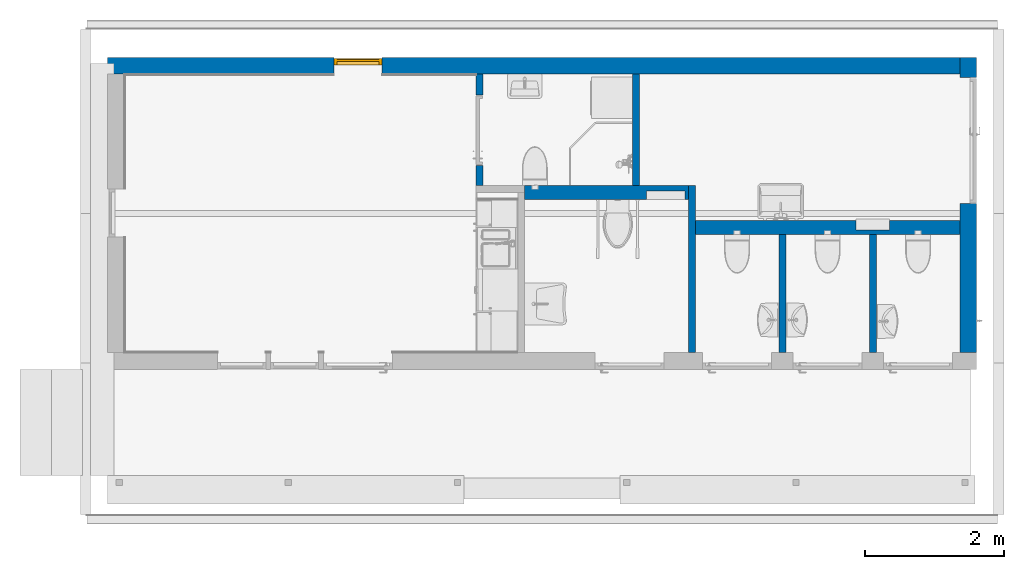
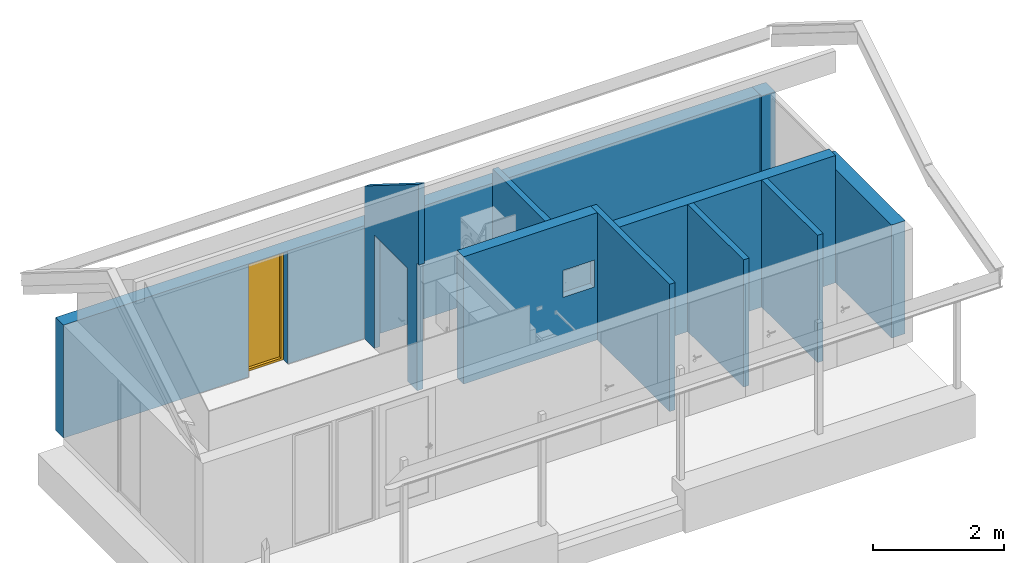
# One storey, part 5 of 15: 9 walls, 1 window, 9 openings.
"""IFC2X3 building model written with IfcOpenShell, lengths in millimetres."""

from ifc_helpers import new_model, entity, si_unit, converted_unit, direction, frame, frame_2d, origin, origin_2d_with_axis, place, context, subcontext, project, spatial, polyline, circle_curve, parameter, trimmed, segment, composite_curve, rectangle, outline, extrude, clip, bounded_halfspace, faceted_brep, source, transform, mapped, material, material_list, layer, layer_set, layer_usage, type_object, type_shapes, element, fill, save


model = new_model("IFC2X3")

# Units and contexts
model_context = context("Model", 3, precision=0.01, world=origin(), true_north=direction((0.0, 1.0)))
body_context = subcontext(model_context, "Body", "Model", "MODEL_VIEW")
ifc_project = project(units=[si_unit("LENGTHUNIT", "METRE", prefix="MILLI"), si_unit("AREAUNIT", "SQUARE_METRE"), si_unit("VOLUMEUNIT", "CUBIC_METRE"), converted_unit("PLANEANGLEUNIT", "DEGREE", entity("IfcPlaneAngleMeasure", 0.017453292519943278), si_unit("PLANEANGLEUNIT", "RADIAN"), dimensions=[0, 0, 0, 0, 0, 0, 0])], contexts=[model_context])

# Site, building, storey
site_placement = place(None, origin())
site = spatial("IfcSite", under=ifc_project, at=site_placement, Name="Default", CompositionType="ELEMENT")
building_placement = place(site_placement, origin())
building = spatial("IfcBuilding", under=site, at=building_placement, CompositionType="ELEMENT")
storey_placement = place(building_placement, origin())
storey = spatial("IfcBuildingStorey", under=building, at=storey_placement, Name="Et. 1", CompositionType="ELEMENT", Elevation=0.0)

# Wall, opening
ifc_material_1 = material(Name="Vegg - Dobbelfals Stående Kledning - Mørkegrå")
ifc_layer_1 = layer(ifc_material_1, 19.0)
ifc_material_2 = material(Name="Default Floor")
ifc_layer_2 = layer(ifc_material_2, 36.0)
ifc_layer_3 = layer(ifc_material_2, 23.0)
ifc_layer_4 = layer(ifc_material_2, 12.0)
ifc_material_3 = material(Name="Vegg - Stender - Isolert")
ifc_layer_5 = layer(ifc_material_3, 150.0)
ifc_layer_set_1 = layer_set([ifc_layer_1, ifc_layer_2, ifc_layer_3, ifc_layer_4, ifc_layer_5], Name="Basic Wall:Yttervegg stående kl")
ifc_layer_usage_1 = layer_usage(ifc_layer_set_1, "AXIS2", "POSITIVE", -120.00000000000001)
wall_type_1 = type_object("IfcWallType", Name="Basic Wall:Yttervegg stående kl", PredefinedType="STANDARD", material=ifc_layer_set_1)
wall_1_placement = place(storey_placement, frame((23670.567419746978, 11853.190261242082, 0.0), z_axis=(0.0, 0.0, 1.0), x_axis=(0.0, 1.0, 0.0)))
wall_1 = element("IfcWallStandardCase", 1, at=wall_1_placement, inside=storey, type_object=wall_type_1, material=ifc_layer_usage_1, Name="Basic Wall:Yttervegg stående kl", context=body_context, shape_type="SweptSolid", body=[
    extrude(rectangle(XDim=4240.000000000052, YDim=240.00000000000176, at=frame_2d((2120.000000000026, -2.5082158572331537e-12), x_axis=(1.0, 0.0))), origin(), (0.0, 0.0, 1.0), 2100.0),
])
opening_1_placement = place(wall_1_placement, frame((3950.0, 120.0, 0.0)))
element("IfcOpeningElement", 2, at=opening_1_placement, cuts=wall_1, Name="YD dobbel hel omramming:18x21M:1", ObjectType="Opening", context=body_context, shape_type="SweptSolid", body=[
    extrude(rectangle(XDim=1810.0000000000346, YDim=2100.000000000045, at=frame_2d((1050.0000000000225, 905.0000000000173), x_axis=(0.0, -1.0))), frame((0.0, 0.0, 0.0), z_axis=(0.0, -1.0, 0.0), x_axis=(0.0, 0.0, 1.0)), (0.0, 0.0, 1.0), 240.00000000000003),
])

# Wall, opening, window
ifc_layer_usage_2 = layer_usage(ifc_layer_set_1, "AXIS2", "POSITIVE", -120.00000000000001)
wall_2_placement = place(storey_placement, frame((23550.56741974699, 15973.190261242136, 0.0), z_axis=(0.0, 0.0, 1.0), x_axis=(-1.0, 0.0, 0.0)))
wall_2 = element("IfcWallStandardCase", 3, at=wall_2_placement, inside=storey, type_object=wall_type_1, material=ifc_layer_usage_2, Name="Basic Wall:Yttervegg stående kl", context=body_context, shape_type="SweptSolid", body=[
    extrude(rectangle(XDim=12240.000000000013, YDim=240.00000000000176, at=frame_2d((6120.000000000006, -9.947598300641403e-14), x_axis=(-1.0, 0.0))), origin(), (0.0, 0.0, 1.0), 2100.0),
])
opening_2_placement = place(wall_2_placement, frame((8990.0, 120.0, 0.0)))
opening_2 = element("IfcOpeningElement", 4, at=opening_2_placement, cuts=wall_2, Name="Hel Rute fast:7x21M:1", ObjectType="Opening", context=body_context, shape_type="SweptSolid", body=[
    extrude(rectangle(XDim=690.0000000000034, YDim=2090.000000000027, at=frame_2d((1045.0000000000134, 345.0000000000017), x_axis=(0.0, -1.0))), frame((0.0, 0.0, 0.0), z_axis=(0.0, -1.0, 0.0), x_axis=(0.0, 0.0, 1.0)), (0.0, 0.0, 1.0), 240.00000000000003),
])
ifc_material_4 = material(Name="Focus - Glass - Klart")
ifc_material_5 = material(Name="Maling mørkegrå")
ifc_material_list = material_list([ifc_material_4, ifc_material_5])
window_style = type_object("IfcWindowStyle", Name="Hel Rute fast:7x21M", ConstructionType="NOTDEFINED", OperationType="NOTDEFINED", ParameterTakesPrecedence=False, Sizeable=False, material=ifc_material_list)
shared_shape = source(origin(), body_context, "Body", "SweptSolid", [
    extrude(rectangle(XDim=25.0, YDim=610.0000000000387, at=origin_2d_with_axis()), frame((345.0, 195.0, 40.0), z_axis=(0.0, 0.0, 1.0), x_axis=(0.0, 1.0, 0.0)), (0.0, 0.0, 1.0), 2009.9999999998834),
    extrude(outline(polyline([(-1045.0, -345.0), (1045.0, -345.0), (1045.0, 345.0), (-1045.0, 345.0), (-1045.0, -345.0)]), holes=[polyline([(1005.0, -305.0), (-1005.0, -305.0), (-1005.0, 305.0), (1005.0, 305.0), (1005.0, -305.0)])]), frame((345.0, 133.0, 1045.0), z_axis=(0.0, 1.0, 0.0), x_axis=(0.0, 0.0, -1.0)), (0.0, 0.0, 1.0), 91.99999999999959),
])
type_shapes(window_style, [shared_shape])
window_placement = place(opening_2_placement, frame((0.0, 0.0, 0.0), z_axis=(0.0, 0.0, 1.0), x_axis=(-1.0, 0.0, 0.0)))
window = element("IfcWindow", 5, at=window_placement, inside=storey, type_object=window_style, material=ifc_material_list, Name="Hel Rute fast:7x21M", OverallHeight=2090.000000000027, OverallWidth=690.0000000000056, context=body_context, shape_type="MappedRepresentation", body=[
    mapped(shared_shape, transform((0.0, 0.0, 0.0), scale=1.0)),
])
fill(opening_2, window)

# Walls
ifc_layer_6 = layer(ifc_material_3, 100.0)
ifc_layer_set_2 = layer_set([ifc_layer_6], Name="Basic Wall:Innervegg isolert")
ifc_layer_usage_3 = layer_usage(ifc_layer_set_2, "AXIS2", "NEGATIVE", 50.0)
wall_type_2 = type_object("IfcWallType", Name="Basic Wall:Innervegg isolert", PredefinedType="STANDARD", material=ifc_layer_set_2)
wall_3_placement = place(storey_placement, frame((22300.567419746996, 11853.190261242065, 0.0), z_axis=(0.0, 0.0, 1.0), x_axis=(0.0, 1.0, 0.0)))
element("IfcWallStandardCase", 6, at=wall_3_placement, inside=storey, type_object=wall_type_2, material=ifc_layer_usage_3, Name="Basic Wall:Innervegg isolert", context=body_context, shape_type="Clipping", body=[
    clip(extrude(rectangle(XDim=1700.0000000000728, YDim=100.00000000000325, at=frame_2d((850.0000000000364, -4.511946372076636e-13), x_axis=(-1.0, 0.0))), origin(), (0.0, 0.0, 1.0), 2364.0), bounded_halfspace(frame((0.0, -50.0, 2364.0), z_axis=(0.0, 0.0, -1.0), x_axis=(-1.0, 0.0, 0.0)), True, frame((0.0, -50.0, 2364.0)), polyline([(0.0, 0.0), (1700.0, 0.0), (1700.0, 100.0), (0.0, 100.0), (0.0, 0.0)]))),
])
ifc_layer_usage_4 = layer_usage(ifc_layer_set_2, "AXIS2", "NEGATIVE", 50.0)
wall_4_placement = place(storey_placement, frame((21000.567419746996, 11853.190261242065, 0.0), z_axis=(0.0, 0.0, 1.0), x_axis=(0.0, 1.0, 0.0)))
element("IfcWallStandardCase", 7, at=wall_4_placement, inside=storey, type_object=wall_type_2, material=ifc_layer_usage_4, Name="Basic Wall:Innervegg isolert", context=body_context, shape_type="Clipping", body=[
    clip(extrude(rectangle(XDim=1700.000000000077, YDim=100.00000000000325, at=frame_2d((850.0000000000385, -4.511946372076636e-13), x_axis=(-1.0, 0.0))), origin(), (0.0, 0.0, 1.0), 2364.0), bounded_halfspace(frame((0.0, -50.0, 2364.0), z_axis=(0.0, 0.0, -1.0), x_axis=(-1.0, 0.0, 0.0)), True, frame((0.0, -50.0, 2364.0)), polyline([(0.0, 0.0), (1700.0, 0.0), (1700.0, 100.0), (0.0, 100.0), (0.0, 0.0)]))),
])
ifc_layer_usage_5 = layer_usage(ifc_layer_set_2, "AXIS2", "NEGATIVE", 50.0)
wall_5_placement = place(storey_placement, frame((19700.567419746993, 11853.190261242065, 0.0), z_axis=(0.0, 0.0, 1.0), x_axis=(0.0, 1.0, 0.0)))
element("IfcWallStandardCase", 8, at=wall_5_placement, inside=storey, type_object=wall_type_2, material=ifc_layer_usage_5, Name="Basic Wall:Innervegg isolert", context=body_context, shape_type="Clipping", body=[
    clip(extrude(rectangle(XDim=2400.0000000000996, YDim=100.00000000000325, at=frame_2d((1200.0000000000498, 2.877698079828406e-13), x_axis=(-1.0, 0.0))), origin(), (0.0, 0.0, 1.0), 2364.0), bounded_halfspace(frame((0.0, -50.0, 2364.0), z_axis=(0.0, 0.0, -1.0), x_axis=(-1.0, 0.0, 0.0)), True, frame((0.0, -50.0, 2364.0)), polyline([(0.0, 0.0), (1700.0, 0.0), (1900.0, 0.0), (2400.0, 0.0), (2400.0, 100.0), (2200.0, 100.0), (0.0, 100.0), (0.0, 0.0)]))),
])

# Wall, opening
wall_6_placement = place(storey_placement, frame((16650.567419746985, 14203.190261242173, 0.0), z_axis=(0.0, 0.0, 1.0), x_axis=(0.0, 1.0, 0.0)))
wall_6 = element("IfcWall", 9, at=wall_6_placement, inside=storey, type_object=wall_type_2, Name="Basic Wall:Innervegg isolert", context=body_context, shape_type="Brep", body=[
    faceted_brep([(1350.0, -50.0, 2100.0), (1350.0, -50.0, 0.0), (1650.0, -50.0, 0.0), (1650.0, -50.0, 2834.968644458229), (0.0, -50.0, 3866.0030751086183), (0.0, -50.0, 2364.0), (50.0, -50.0, 2364.0), (50.0, -50.0, 0.0), (340.0, -50.0, 0.0), (340.0, -50.0, 2100.0), (1650.0, 50.0, 0.0), (1638.0, 50.0, 0.0), (1350.0, 50.0, 0.0), (1350.0, 50.0, 2100.0), (340.0, 50.0, 2100.0), (340.0, 50.0, 0.0), (50.0, 50.0, 0.0), (50.0, 50.0, 2364.0), (0.0, 50.0, 2364.0), (0.0, 50.0, 3866.0030751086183), (1638.0, 50.0, 2842.467076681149), (1650.0, 50.0, 2834.9686444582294)], [[[0, 1, 2, 3, 4, 5, 6, 7, 8, 9]], [[10, 11, 12, 13, 14, 15, 16, 17, 18, 19, 20, 21]], [[8, 7, 16, 15]], [[2, 10, 21, 3]], [[13, 12, 1, 0]], [[14, 13, 0, 9]], [[15, 14, 9, 8]], [[4, 3, 21, 20, 19]], [[5, 4, 19, 18]], [[5, 18, 17, 6]], [[6, 17, 16, 7]], [[2, 1, 12, 11, 10]]]),
])
opening_3_placement = place(wall_6_placement, frame((340.0, -50.0, 0.0)))
element("IfcOpeningElement", 10, at=opening_3_placement, cuts=wall_6, Name="ID Hel:10x21M 2:1", ObjectType="Opening", context=body_context, shape_type="SweptSolid", body=[
    extrude(rectangle(XDim=1010.0000000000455, YDim=2100.000000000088, at=frame_2d((1050.000000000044, 505.00000000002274), x_axis=(0.0, 1.0))), frame((0.0, 0.0, 0.0), z_axis=(0.0, 1.0, 0.0), x_axis=(0.0, 0.0, 1.0)), (0.0, 0.0, 1.0), 100.0),
])

# Wall
ifc_layer_usage_6 = layer_usage(ifc_layer_set_2, "AXIS2", "NEGATIVE", 50.0)
wall_7_placement = place(storey_placement, frame((18900.567419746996, 15853.190261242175, 0.0), z_axis=(0.0, 0.0, 1.0), x_axis=(0.0, -1.0, 0.0)))
element("IfcWallStandardCase", 11, at=wall_7_placement, inside=storey, type_object=wall_type_2, material=ifc_layer_usage_6, Name="Basic Wall:Innervegg isolert", context=body_context, shape_type="Clipping", body=[
    clip(extrude(rectangle(XDim=1600.0000000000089, YDim=99.99999999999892, at=frame_2d((800.0000000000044, 3.197442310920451e-14), x_axis=(-1.0, 0.0))), origin(), (0.0, 0.0, 1.0), 2364.0), bounded_halfspace(frame((0.0, -50.0, 2364.0), z_axis=(0.0, 0.0, -1.0), x_axis=(1.0, 0.0, 0.0)), True, frame((0.0, -50.0, 2364.0)), polyline([(0.0, 0.0), (1600.0, 0.0), (1600.0, 100.0), (0.0, 100.0), (0.0, 0.0)]))),
])

# Wall, openings
ifc_layer_7 = layer(ifc_material_3, 200.0)
ifc_layer_set_3 = layer_set([ifc_layer_7], Name="Basic Wall:Innervegg isolert 200")
ifc_layer_usage_7 = layer_usage(ifc_layer_set_3, "AXIS2", "NEGATIVE", 100.0)
wall_type_3 = type_object("IfcWallType", Name="Basic Wall:Innervegg isolert 200", PredefinedType="STANDARD", material=ifc_layer_set_3)
wall_8_placement = place(storey_placement, frame((17300.567419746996, 14153.190261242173, 0.0)))
wall_8 = element("IfcWallStandardCase", 12, at=wall_8_placement, inside=storey, type_object=wall_type_3, material=ifc_layer_usage_7, Name="Basic Wall:Innervegg isolert 200", context=body_context, shape_type="Clipping", body=[
    clip(extrude(rectangle(XDim=2349.999999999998, YDim=200.0, at=frame_2d((1174.999999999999, -1.7550405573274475e-12), x_axis=(-1.0, 0.0))), origin(), (0.0, 0.0, 1.0), 2364.0), bounded_halfspace(frame((0.0, -100.0, 2364.0), z_axis=(0.0, 0.0, -1.0), x_axis=(0.0, -1.0, 0.0)), True, frame((0.0, -100.0, 2364.0)), polyline([(0.0, 0.0), (2350.0, 0.0), (2350.0, 200.0), (1650.0, 200.0), (1550.0, 200.0), (0.0, 200.0), (0.0, 100.0), (0.0, 0.0)]))),
])
opening_4_placement = place(wall_8_placement, origin())
element("IfcOpeningElement", 13, at=opening_4_placement, cuts=wall_8, Name="Basic Wall:Innervegg isolert 200", ObjectType="Recess", context=body_context, shape_type="SweptSolid", body=[
    extrude(outline(composite_curve([segment(polyline([(-40.0, -35.0), (40.0, -35.0)]), True, "CONTINUOUS"), segment(trimmed(circle_curve(frame_2d((40.0, -25.0), x_axis=(-1.0, 0.0)), 10.0), [parameter(90.00000000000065)], [parameter(179.99999999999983)], True, "PARAMETER"), True, "CONTINUOUS"), segment(polyline([(50.0, -25.0), (50.0, 25.0)]), True, "CONTINUOUS"), segment(trimmed(circle_curve(frame_2d((40.0, 25.0), x_axis=(-1.0, 0.0)), 10.0), [parameter(179.99999999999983)], [parameter(269.99999999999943)], True, "PARAMETER"), True, "CONTINUOUS"), segment(polyline([(40.0, 35.0), (-40.0, 35.0)]), True, "CONTINUOUS"), segment(trimmed(circle_curve(frame_2d((-40.0, 25.0), x_axis=(-1.0, 0.0)), 10.0), [parameter(269.9999999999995)], [parameter(359.99999999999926)], True, "PARAMETER"), True, "CONTINUOUS"), segment(polyline([(-50.0, 25.0), (-50.0, -25.0)]), True, "CONTINUOUS"), segment(trimmed(circle_curve(frame_2d((-40.0, -25.0), x_axis=(-1.0, 0.0)), 10.0), [parameter(359.99999999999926)], [parameter(90.00000000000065)], True, "PARAMETER"), True, "CONTINUOUS")], self_intersect=False)), frame((145.0, 90.0, 900.0), z_axis=(0.0, 1.0, 0.0), x_axis=(-1.0, 0.0, 0.0)), (0.0, 0.0, 1.0), 10.000000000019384),
])
opening_5_placement = place(wall_8_placement, origin())
element("IfcOpeningElement", 14, at=opening_5_placement, cuts=wall_8, Name="Basic Wall:Innervegg isolert 200", ObjectType="Recess", context=body_context, shape_type="SweptSolid", body=[
    extrude(rectangle(XDim=500.00000000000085, YDim=549.9999999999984, at=frame_2d((-1.4210854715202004e-13, -1.0800249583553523e-12), x_axis=(1.0, 0.0))), frame((2025.0, -100.0, 1250.0), z_axis=(0.0, 1.0, 0.0), x_axis=(0.0, 0.0, -1.0)), (0.0, 0.0, 1.0), 119.9999999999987),
])

ifc_layer_usage_8 = layer_usage(ifc_layer_set_3, "AXIS2", "NEGATIVE", 100.0)
wall_9_placement = place(storey_placement, frame((19750.567419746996, 13653.190261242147, 0.0)))
wall_9 = element("IfcWallStandardCase", 15, at=wall_9_placement, inside=storey, type_object=wall_type_3, material=ifc_layer_usage_8, Name="Basic Wall:Innervegg isolert 200", context=body_context, shape_type="Clipping", body=[
    clip(extrude(rectangle(XDim=3799.9999999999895, YDim=200.0, at=frame_2d((1899.9999999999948, -1.3642420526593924e-12), x_axis=(-1.0, 0.0))), origin(), (0.0, 0.0, 1.0), 2364.0), bounded_halfspace(frame((0.0, -100.0, 2364.0), z_axis=(0.0, 0.0, -1.0), x_axis=(0.0, -1.0, 0.0)), True, frame((0.0, -100.0, 2364.0)), polyline([(0.0, 0.0), (1200.0, 0.0), (1300.0, 0.0), (2500.0, 0.0), (2600.0, 0.0), (3800.0, 0.0), (3800.0, 200.0), (0.0, 200.0), (0.0, 0.0)]))),
])
opening_6_placement = place(wall_9_placement, origin())
element("IfcOpeningElement", 16, at=opening_6_placement, cuts=wall_9, Name="Basic Wall:Innervegg isolert 200", ObjectType="Recess", context=body_context, shape_type="SweptSolid", body=[
    extrude(outline(composite_curve([segment(trimmed(circle_curve(frame_2d((40.0, -25.0), x_axis=(1.0, 0.0)), 10.0), [parameter(269.9999999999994)], [parameter(7.633331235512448e-13)], True, "PARAMETER"), True, "CONTINUOUS"), segment(polyline([(50.0, -25.0), (50.0, 25.0)]), True, "CONTINUOUS"), segment(trimmed(circle_curve(frame_2d((40.0, 25.0), x_axis=(1.0, 0.0)), 10.0), [parameter(7.633331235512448e-13)], [parameter(90.0000000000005)], True, "PARAMETER"), True, "CONTINUOUS"), segment(polyline([(40.0, 35.0), (-40.0, 35.0)]), True, "CONTINUOUS"), segment(trimmed(circle_curve(frame_2d((-40.0, 25.0), x_axis=(1.0, 0.0)), 10.0), [parameter(90.00000000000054)], [parameter(180.00000000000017)], True, "PARAMETER"), True, "CONTINUOUS"), segment(polyline([(-50.0, 25.0), (-50.0, -25.0)]), True, "CONTINUOUS"), segment(trimmed(circle_curve(frame_2d((-40.0, -25.0), x_axis=(1.0, 0.0)), 10.0), [parameter(180.00000000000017)], [parameter(269.9999999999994)], True, "PARAMETER"), True, "CONTINUOUS"), segment(polyline([(-40.0, -35.0), (40.0, -35.0)]), True, "CONTINUOUS")], self_intersect=False)), frame((3200.0, -100.0, 900.0), z_axis=(0.0, 1.0, 0.0), x_axis=(-1.0, 0.0, 0.0)), (0.0, 0.0, 1.0), 10.000000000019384),
])
opening_7_placement = place(wall_9_placement, origin())
element("IfcOpeningElement", 17, at=opening_7_placement, cuts=wall_9, Name="Basic Wall:Innervegg isolert 200", ObjectType="Recess", context=body_context, shape_type="SweptSolid", body=[
    extrude(outline(composite_curve([segment(trimmed(circle_curve(frame_2d((40.0, -25.0), x_axis=(1.0, 0.0)), 10.0), [parameter(269.9999999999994)], [parameter(7.633331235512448e-13)], True, "PARAMETER"), True, "CONTINUOUS"), segment(polyline([(50.0, -25.0), (50.0, 25.0)]), True, "CONTINUOUS"), segment(trimmed(circle_curve(frame_2d((40.0, 25.0), x_axis=(1.0, 0.0)), 10.0), [parameter(7.633331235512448e-13)], [parameter(90.0000000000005)], True, "PARAMETER"), True, "CONTINUOUS"), segment(polyline([(40.0, 35.0), (-40.0, 35.0)]), True, "CONTINUOUS"), segment(trimmed(circle_curve(frame_2d((-40.0, 25.0), x_axis=(1.0, 0.0)), 10.0), [parameter(90.00000000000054)], [parameter(180.00000000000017)], True, "PARAMETER"), True, "CONTINUOUS"), segment(polyline([(-50.0, 25.0), (-50.0, -25.0)]), True, "CONTINUOUS"), segment(trimmed(circle_curve(frame_2d((-40.0, -25.0), x_axis=(1.0, 0.0)), 10.0), [parameter(180.00000000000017)], [parameter(269.9999999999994)], True, "PARAMETER"), True, "CONTINUOUS"), segment(polyline([(-40.0, -35.0), (40.0, -35.0)]), True, "CONTINUOUS")], self_intersect=False)), frame((1900.0, -100.0, 900.0), z_axis=(0.0, 1.0, 0.0), x_axis=(-1.0, 0.0, 0.0)), (0.0, 0.0, 1.0), 10.000000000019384),
])
opening_8_placement = place(wall_9_placement, origin())
element("IfcOpeningElement", 18, at=opening_8_placement, cuts=wall_9, Name="Basic Wall:Innervegg isolert 200", ObjectType="Recess", context=body_context, shape_type="SweptSolid", body=[
    extrude(outline(composite_curve([segment(trimmed(circle_curve(frame_2d((40.0, -25.0), x_axis=(1.0, 0.0)), 10.0), [parameter(269.9999999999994)], [parameter(7.633331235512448e-13)], True, "PARAMETER"), True, "CONTINUOUS"), segment(polyline([(50.0, -25.0), (50.0, 25.0)]), True, "CONTINUOUS"), segment(trimmed(circle_curve(frame_2d((40.0, 25.0), x_axis=(1.0, 0.0)), 10.0), [parameter(7.633331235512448e-13)], [parameter(90.0000000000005)], True, "PARAMETER"), True, "CONTINUOUS"), segment(polyline([(40.0, 35.0), (-40.0, 35.0)]), True, "CONTINUOUS"), segment(trimmed(circle_curve(frame_2d((-40.0, 25.0), x_axis=(1.0, 0.0)), 10.0), [parameter(90.00000000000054)], [parameter(180.00000000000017)], True, "PARAMETER"), True, "CONTINUOUS"), segment(polyline([(-50.0, 25.0), (-50.0, -25.0)]), True, "CONTINUOUS"), segment(trimmed(circle_curve(frame_2d((-40.0, -25.0), x_axis=(1.0, 0.0)), 10.0), [parameter(180.00000000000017)], [parameter(269.9999999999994)], True, "PARAMETER"), True, "CONTINUOUS"), segment(polyline([(-40.0, -35.0), (40.0, -35.0)]), True, "CONTINUOUS")], self_intersect=False)), frame((600.0, -100.0, 900.0), z_axis=(0.0, 1.0, 0.0), x_axis=(-1.0, 0.0, 0.0)), (0.0, 0.0, 1.0), 10.000000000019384),
])
opening_9_placement = place(wall_9_placement, origin())
element("IfcOpeningElement", 19, at=opening_9_placement, cuts=wall_9, Name="Basic Wall:Innervegg isolert 200", ObjectType="Recess", context=body_context, shape_type="SweptSolid", body=[
    extrude(rectangle(XDim=919.9999999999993, YDim=479.9999999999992, at=frame_2d((-2.1742607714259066e-12, 0.0), x_axis=(0.0, 1.0))), frame((2550.0, -40.0, 1460.0), z_axis=(0.0, 1.0, 0.0), x_axis=(1.0, 0.0, 0.0)), (0.0, 0.0, 1.0), 139.9999999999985),
])

save(model, "model.ifc")
